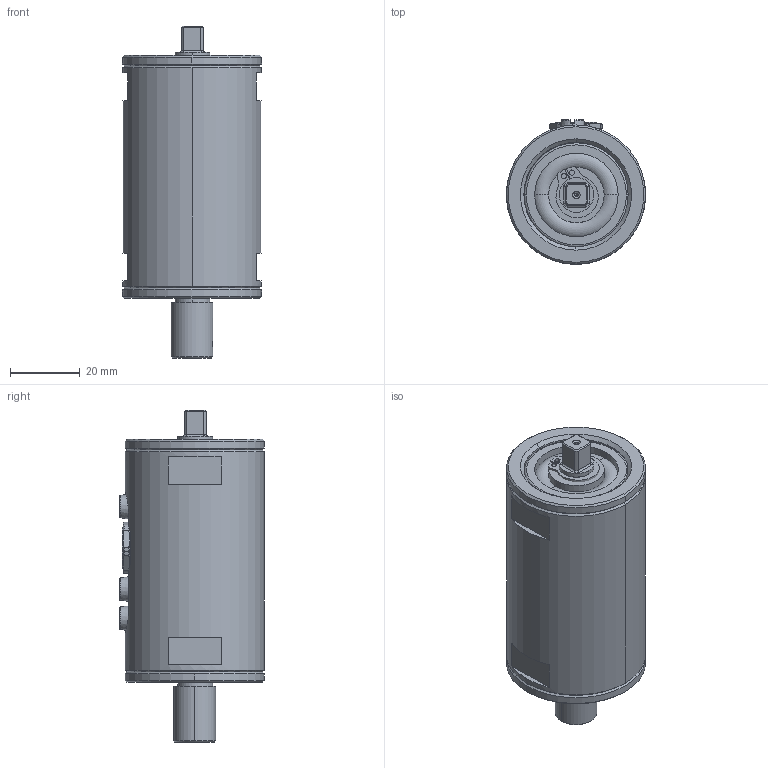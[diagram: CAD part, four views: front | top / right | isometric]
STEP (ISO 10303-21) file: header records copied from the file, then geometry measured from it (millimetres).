
FILE_DESCRIPTION (( 'STEP AP203' ), '1' );
FILE_NAME ('400006-ATS006_17,5Nm-10mm-Vierkant.STEP', '2017-02-20T10:10:53', ( '' ), ( '' ), 'SwSTEP 2.0', 'SolidWorks 2016', '' );
FILE_SCHEMA (( 'CONFIG_CONTROL_DESIGN' ));
Length unit declared in the file: millimetre
Products named in the file (15): 400006-ATM002-Mutter-Binder-Stecker; 400006-ATS021-PCB12_mit_Stecker_Welle 10mm; 999999-ATN087-Tellerfeder-29,7x17,3_Standard; DIN 988-22x30x0.5_DIN 988-22x30x0.5; ISO 1207 - M4 x 4 --- 4S_ISO 1207 - M4 x 4 --- 4S; 400006-ATM013-Vierkanthülse-1-4Z; ISO 4762 M3 x 5 --- 5S_DIN 912 M3 x 5 --- 5S; Circlip DIN 471 - 10 x 1_Circlip DIN 471 - 10 x 1; 400006-ATS006_17,5Nm-10mm-Vierkant; 400006-ATM020_Welle10mm-Vierkant; 400006-ATM005_Lagerdeckel-10mm; 400006-ATE009-Binder-712-0416-90-05; 400006-ATM004_Rohrgehäuse-40mm; ISO 1207 - M4 x 5 --- 5S_ISO 1207 - M4 x 5 --- 5S; DIN 625 - 6200 - 8,SI,NC,8_68_DIN 625 - 6200 - Full,SI,NC,Full_68
Assembly tree (21 placements, depth 3):
  400006-ATS006_17,5Nm-10mm-Vierkant
    400006-ATM020_Welle10mm-Vierkant
    400006-ATS021-PCB12_mit_Stecker_Welle 10mm
      400006-ATE009-Binder-712-0416-90-05
    ISO 4762 M3 x 5 --- 5S_DIN 912 M3 x 5 --- 5S  x4
    400006-ATM004_Rohrgehäuse-40mm
    400006-ATM005_Lagerdeckel-10mm  x2
    999999-ATN087-Tellerfeder-29,7x17,3_Standard
    DIN 625 - 6200 - 8,SI,NC,8_68_DIN 625 - 6200 - Full,SI,NC,Full_68  x2
    Circlip DIN 471 - 10 x 1_Circlip DIN 471 - 10 x 1  x2
    ISO 1207 - M4 x 5 --- 5S_ISO 1207 - M4 x 5 --- 5S  x2
    ISO 1207 - M4 x 4 --- 4S_ISO 1207 - M4 x 4 --- 4S
    400006-ATM013-Vierkanthülse-1-4Z
    DIN 988-22x30x0.5_DIN 988-22x30x0.5
    400006-ATM002-Mutter-Binder-Stecker
Bounding box: 40 x 41.6 x 95.5 mm (x, y, z)
Volume: 49305.4 mm3; surface area: 39910.3 mm2
Topology: 20 solids, 20 shells, 950 faces, 2306 edges, 1428 vertices
Faces by surface type: cylinder 326, cone 298, plane 248, torus 68, bspline 10
Entity records: 21253 total; most frequent: CARTESIAN_POINT 4771, DIRECTION 3252, ORIENTED_EDGE 2980, EDGE_CURVE 1490, AXIS2_PLACEMENT_3D 1336, VERTEX_POINT 939, CIRCLE 699, EDGE_LOOP 697
